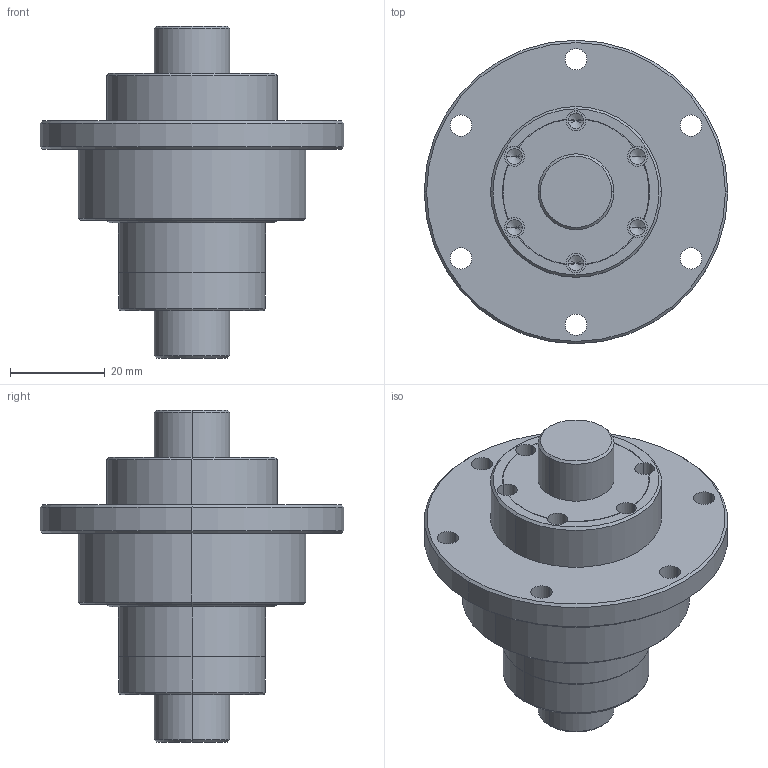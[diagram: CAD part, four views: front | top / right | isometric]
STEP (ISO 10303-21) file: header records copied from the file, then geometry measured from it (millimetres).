
FILE_DESCRIPTION (( 'STEP AP203' ), '1' );
FILE_NAME ('RLSF16.STEP', '2014-11-13T05:15:52', ( '' ), ( '' ), 'SwSTEP 2.0', 'SolidWorks 2014', '' );
FILE_SCHEMA (( 'CONFIG_CONTROL_DESIGN' ));
Length unit declared in the file: millimetre
Products named in the file (1): RLSF16
Bounding box: 64 x 64 x 70 mm (x, y, z)
Volume: 73249 mm3; surface area: 22169.7 mm2
Topology: 3 solids, 3 shells, 114 faces, 280 edges, 172 vertices
Faces by surface type: cylinder 74, cone 26, plane 12, torus 2
Entity records: 3445 total; most frequent: DIRECTION 666, CARTESIAN_POINT 555, ORIENTED_EDGE 536, AXIS2_PLACEMENT_3D 283, EDGE_CURVE 268, VERTEX_POINT 172, CIRCLE 168, EDGE_LOOP 142
